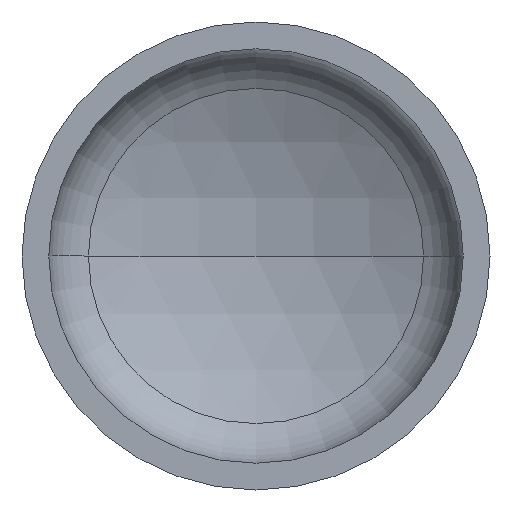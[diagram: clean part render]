
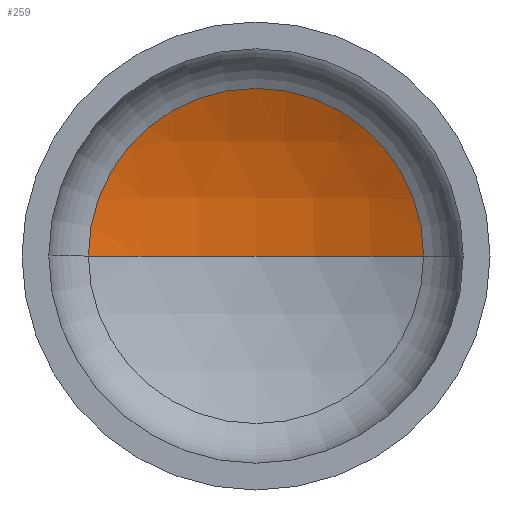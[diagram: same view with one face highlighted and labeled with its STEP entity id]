
A CAD part, front view. The second image highlights one B-rep face of the part: STEP entity #259.
In plain terms, the highlighted spherical face has radius 1120 mm.
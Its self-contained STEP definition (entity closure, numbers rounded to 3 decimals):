
#10 = DIRECTION ( 'NONE',  ( 0., 0., -1. ) ) ;
#19 = EDGE_LOOP ( 'NONE', ( #396, #66, #28 ) ) ;
#28 = ORIENTED_EDGE ( 'NONE', *, *, #143, .T. ) ;
#30 = AXIS2_PLACEMENT_3D ( 'NONE', #40, #10, #371 ) ;
#31 = VERTEX_POINT ( 'NONE', #266 ) ;
#40 = CARTESIAN_POINT ( 'NONE',  ( 0., -689.321, 0. ) ) ;
#51 = AXIS2_PLACEMENT_3D ( 'NONE', #243, #241, #238 ) ;
#54 = AXIS2_PLACEMENT_3D ( 'NONE', #182, #185, #200 ) ;
#56 = AXIS2_PLACEMENT_3D ( 'NONE', #218, #380, #246 ) ;
#57 = VERTEX_POINT ( 'NONE', #230 ) ;
#66 = ORIENTED_EDGE ( 'NONE', *, *, #146, .T. ) ;
#105 = VERTEX_POINT ( 'NONE', #210 ) ;
#119 = CIRCLE ( 'NONE', #56, 501.215 ) ;
#143 = EDGE_CURVE ( 'NONE', #31, #57, #119, .T. ) ;
#146 = EDGE_CURVE ( 'NONE', #105, #31, #379, .T. ) ;
#147 = EDGE_CURVE ( 'NONE', #105, #57, #258, .T. ) ;
#182 = CARTESIAN_POINT ( 'NONE',  ( 0., -689.321, 0. ) ) ;
#185 = DIRECTION ( 'NONE',  ( 0., 0., -1. ) ) ;
#200 = DIRECTION ( 'NONE',  ( -1., 0., 0. ) ) ;
#210 = CARTESIAN_POINT ( 'NONE',  ( 0., 430.679, 0. ) ) ;
#218 = CARTESIAN_POINT ( 'NONE',  ( 0., 312.27, 0. ) ) ;
#230 = CARTESIAN_POINT ( 'NONE',  ( -501.215, 312.27, 0. ) ) ;
#238 = DIRECTION ( 'NONE',  ( 1., 0., 0. ) ) ;
#241 = DIRECTION ( 'NONE',  ( 0., 0., 1. ) ) ;
#243 = CARTESIAN_POINT ( 'NONE',  ( 0., -689.321, 0. ) ) ;
#246 = DIRECTION ( 'NONE',  ( 1., 0., 0. ) ) ;
#258 = CIRCLE ( 'NONE', #51, 1120. ) ;
#259 = ADVANCED_FACE ( 'NONE', ( #314 ), #370, .F. ) ;
#266 = CARTESIAN_POINT ( 'NONE',  ( 501.215, 312.27, 0. ) ) ;
#314 = FACE_OUTER_BOUND ( 'NONE', #19, .T. ) ;
#370 = SPHERICAL_SURFACE ( 'NONE', #30, 1120. ) ;
#371 = DIRECTION ( 'NONE',  ( -1., 0., 0. ) ) ;
#379 = CIRCLE ( 'NONE', #54, 1120. ) ;
#380 = DIRECTION ( 'NONE',  ( 0., -1., 0. ) ) ;
#396 = ORIENTED_EDGE ( 'NONE', *, *, #147, .F. ) ;
